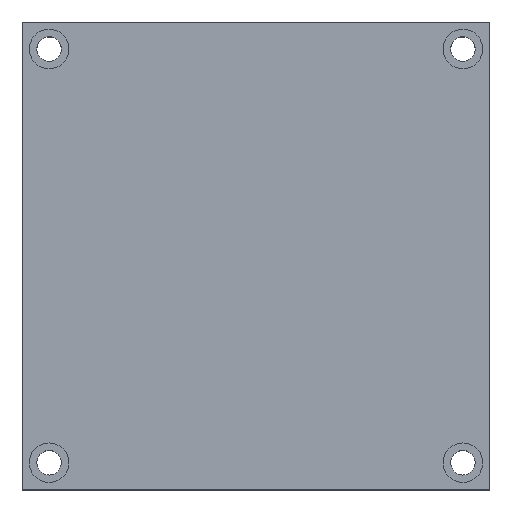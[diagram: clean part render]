
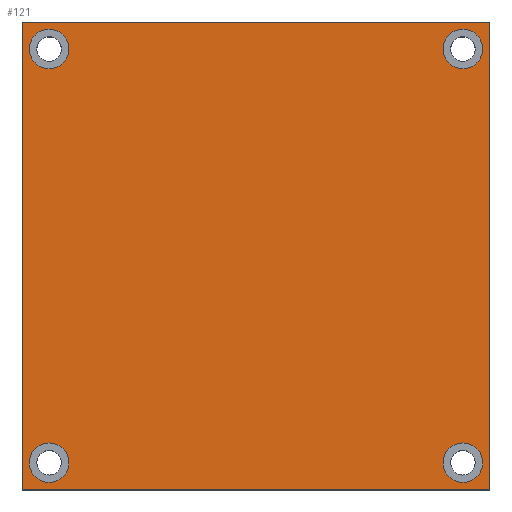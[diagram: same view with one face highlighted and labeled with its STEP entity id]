
A CAD part, top view. The second image highlights one B-rep face of the part: STEP entity #121.
In plain terms, the highlighted planar face has unit normal (0, 0, 1).
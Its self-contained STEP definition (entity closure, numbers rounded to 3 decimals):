
#13 = EDGE_CURVE ( 'NONE', #1960, #2232, #750, .T. ) ;
#14 = DIRECTION ( 'NONE',  ( 1., 0., 0. ) ) ;
#25 = EDGE_LOOP ( 'NONE', ( #100, #1972 ) ) ;
#94 = ORIENTED_EDGE ( 'NONE', *, *, #1992, .F. ) ;
#100 = ORIENTED_EDGE ( 'NONE', *, *, #2672, .F. ) ;
#121 = ADVANCED_FACE ( 'NONE', ( #2339, #1904, #1653, #1236, #1667 ), #466, .T. ) ;
#124 = AXIS2_PLACEMENT_3D ( 'NONE', #520, #505, #1559 ) ;
#131 = DIRECTION ( 'NONE',  ( 1., 0., 0. ) ) ;
#137 = EDGE_LOOP ( 'NONE', ( #480, #228 ) ) ;
#158 = VECTOR ( 'NONE', #363, 1000. ) ;
#165 = CARTESIAN_POINT ( 'NONE',  ( -65., 65., 23. ) ) ;
#176 = AXIS2_PLACEMENT_3D ( 'NONE', #1382, #1605, #131 ) ;
#196 = DIRECTION ( 'NONE',  ( 1., 0., 0. ) ) ;
#212 = CARTESIAN_POINT ( 'NONE',  ( 63., -57.5, 23. ) ) ;
#228 = ORIENTED_EDGE ( 'NONE', *, *, #1787, .F. ) ;
#235 = DIRECTION ( 'NONE',  ( 0., 0., 1. ) ) ;
#287 = VERTEX_POINT ( 'NONE', #969 ) ;
#300 = AXIS2_PLACEMENT_3D ( 'NONE', #1240, #2709, #14 ) ;
#354 = CARTESIAN_POINT ( 'NONE',  ( 52., 57.5, 23. ) ) ;
#363 = DIRECTION ( 'NONE',  ( -1., 0., 0. ) ) ;
#399 = VECTOR ( 'NONE', #1613, 1000. ) ;
#424 = VERTEX_POINT ( 'NONE', #2172 ) ;
#466 = PLANE ( 'NONE',  #1275 ) ;
#480 = ORIENTED_EDGE ( 'NONE', *, *, #683, .F. ) ;
#505 = DIRECTION ( 'NONE',  ( 0., 0., 1. ) ) ;
#507 = VERTEX_POINT ( 'NONE', #1999 ) ;
#508 = AXIS2_PLACEMENT_3D ( 'NONE', #1198, #2048, #1797 ) ;
#509 = DIRECTION ( 'NONE',  ( 0., 0., 1. ) ) ;
#520 = CARTESIAN_POINT ( 'NONE',  ( 57.5, 57.5, 23. ) ) ;
#551 = VERTEX_POINT ( 'NONE', #354 ) ;
#626 = VECTOR ( 'NONE', #1510, 1000. ) ;
#658 = DIRECTION ( 'NONE',  ( 0., 0., 1. ) ) ;
#683 = EDGE_CURVE ( 'NONE', #2200, #1727, #854, .T. ) ;
#688 = CIRCLE ( 'NONE', #1772, 5.5 ) ;
#703 = EDGE_CURVE ( 'NONE', #287, #507, #2080, .T. ) ;
#715 = VERTEX_POINT ( 'NONE', #1461 ) ;
#750 = LINE ( 'NONE', #165, #158 ) ;
#783 = CARTESIAN_POINT ( 'NONE',  ( 65., 65., 23. ) ) ;
#800 = ORIENTED_EDGE ( 'NONE', *, *, #2144, .T. ) ;
#854 = CIRCLE ( 'NONE', #300, 5.5 ) ;
#957 = AXIS2_PLACEMENT_3D ( 'NONE', #1430, #1872, #196 ) ;
#969 = CARTESIAN_POINT ( 'NONE',  ( -63., -57.5, 23. ) ) ;
#985 = EDGE_CURVE ( 'NONE', #2675, #715, #1401, .T. ) ;
#1045 = DIRECTION ( 'NONE',  ( 1., 0., 0. ) ) ;
#1133 = EDGE_LOOP ( 'NONE', ( #2427, #1558 ) ) ;
#1136 = CARTESIAN_POINT ( 'NONE',  ( 57.5, 57.5, 23. ) ) ;
#1146 = ORIENTED_EDGE ( 'NONE', *, *, #1305, .F. ) ;
#1151 = EDGE_LOOP ( 'NONE', ( #94, #1146 ) ) ;
#1154 = CARTESIAN_POINT ( 'NONE',  ( -65., -65., 23. ) ) ;
#1198 = CARTESIAN_POINT ( 'NONE',  ( 57.5, -57.5, 23. ) ) ;
#1236 = FACE_BOUND ( 'NONE', #137, .T. ) ;
#1240 = CARTESIAN_POINT ( 'NONE',  ( 57.5, -57.5, 23. ) ) ;
#1250 = CIRCLE ( 'NONE', #176, 5.5 ) ;
#1269 = EDGE_CURVE ( 'NONE', #424, #2102, #688, .T. ) ;
#1275 = AXIS2_PLACEMENT_3D ( 'NONE', #1280, #2705, #1486 ) ;
#1280 = CARTESIAN_POINT ( 'NONE',  ( 0., 0., 23. ) ) ;
#1305 = EDGE_CURVE ( 'NONE', #551, #1564, #2529, .T. ) ;
#1326 = CARTESIAN_POINT ( 'NONE',  ( 52., -57.5, 23. ) ) ;
#1382 = CARTESIAN_POINT ( 'NONE',  ( -57.5, 57.5, 23. ) ) ;
#1401 = LINE ( 'NONE', #2069, #1413 ) ;
#1413 = VECTOR ( 'NONE', #1858, 1000. ) ;
#1430 = CARTESIAN_POINT ( 'NONE',  ( -57.5, -57.5, 23. ) ) ;
#1440 = CARTESIAN_POINT ( 'NONE',  ( 63., 57.5, 23. ) ) ;
#1447 = CARTESIAN_POINT ( 'NONE',  ( -57.5, -57.5, 23. ) ) ;
#1461 = CARTESIAN_POINT ( 'NONE',  ( 65., -65., 23. ) ) ;
#1485 = DIRECTION ( 'NONE',  ( 1., 0., 0. ) ) ;
#1486 = DIRECTION ( 'NONE',  ( 1., 0., 0. ) ) ;
#1510 = DIRECTION ( 'NONE',  ( 0., -1., 0. ) ) ;
#1534 = DIRECTION ( 'NONE',  ( 1., 0., 0. ) ) ;
#1537 = LINE ( 'NONE', #1977, #626 ) ;
#1558 = ORIENTED_EDGE ( 'NONE', *, *, #703, .F. ) ;
#1559 = DIRECTION ( 'NONE',  ( 1., 0., 0. ) ) ;
#1564 = VERTEX_POINT ( 'NONE', #1440 ) ;
#1592 = AXIS2_PLACEMENT_3D ( 'NONE', #1447, #235, #1045 ) ;
#1605 = DIRECTION ( 'NONE',  ( 0., 0., 1. ) ) ;
#1613 = DIRECTION ( 'NONE',  ( 0., 1., 0. ) ) ;
#1639 = ORIENTED_EDGE ( 'NONE', *, *, #13, .T. ) ;
#1653 = FACE_BOUND ( 'NONE', #1151, .T. ) ;
#1667 = FACE_OUTER_BOUND ( 'NONE', #2015, .T. ) ;
#1691 = CIRCLE ( 'NONE', #1865, 5.5 ) ;
#1727 = VERTEX_POINT ( 'NONE', #1326 ) ;
#1754 = EDGE_CURVE ( 'NONE', #2232, #2675, #1537, .T. ) ;
#1772 = AXIS2_PLACEMENT_3D ( 'NONE', #2544, #658, #1485 ) ;
#1787 = EDGE_CURVE ( 'NONE', #1727, #2200, #2516, .T. ) ;
#1797 = DIRECTION ( 'NONE',  ( 1., 0., 0. ) ) ;
#1830 = CARTESIAN_POINT ( 'NONE',  ( -52., 57.5, 23. ) ) ;
#1858 = DIRECTION ( 'NONE',  ( 1., 0., 0. ) ) ;
#1865 = AXIS2_PLACEMENT_3D ( 'NONE', #1136, #509, #1534 ) ;
#1872 = DIRECTION ( 'NONE',  ( 0., 0., 1. ) ) ;
#1904 = FACE_BOUND ( 'NONE', #25, .T. ) ;
#1960 = VERTEX_POINT ( 'NONE', #2615 ) ;
#1972 = ORIENTED_EDGE ( 'NONE', *, *, #1269, .F. ) ;
#1977 = CARTESIAN_POINT ( 'NONE',  ( -65., 65., 23. ) ) ;
#1992 = EDGE_CURVE ( 'NONE', #1564, #551, #1691, .T. ) ;
#1999 = CARTESIAN_POINT ( 'NONE',  ( -52., -57.5, 23. ) ) ;
#2015 = EDGE_LOOP ( 'NONE', ( #800, #1639, #2277, #2151 ) ) ;
#2048 = DIRECTION ( 'NONE',  ( 0., 0., 1. ) ) ;
#2069 = CARTESIAN_POINT ( 'NONE',  ( -65., -65., 23. ) ) ;
#2080 = CIRCLE ( 'NONE', #1592, 5.5 ) ;
#2102 = VERTEX_POINT ( 'NONE', #1830 ) ;
#2144 = EDGE_CURVE ( 'NONE', #715, #1960, #2229, .T. ) ;
#2151 = ORIENTED_EDGE ( 'NONE', *, *, #985, .T. ) ;
#2172 = CARTESIAN_POINT ( 'NONE',  ( -63., 57.5, 23. ) ) ;
#2196 = EDGE_CURVE ( 'NONE', #507, #287, #2624, .T. ) ;
#2200 = VERTEX_POINT ( 'NONE', #212 ) ;
#2229 = LINE ( 'NONE', #783, #399 ) ;
#2232 = VERTEX_POINT ( 'NONE', #2293 ) ;
#2277 = ORIENTED_EDGE ( 'NONE', *, *, #1754, .T. ) ;
#2293 = CARTESIAN_POINT ( 'NONE',  ( -65., 65., 23. ) ) ;
#2339 = FACE_BOUND ( 'NONE', #1133, .T. ) ;
#2427 = ORIENTED_EDGE ( 'NONE', *, *, #2196, .F. ) ;
#2516 = CIRCLE ( 'NONE', #508, 5.5 ) ;
#2529 = CIRCLE ( 'NONE', #124, 5.5 ) ;
#2544 = CARTESIAN_POINT ( 'NONE',  ( -57.5, 57.5, 23. ) ) ;
#2615 = CARTESIAN_POINT ( 'NONE',  ( 65., 65., 23. ) ) ;
#2624 = CIRCLE ( 'NONE', #957, 5.5 ) ;
#2672 = EDGE_CURVE ( 'NONE', #2102, #424, #1250, .T. ) ;
#2675 = VERTEX_POINT ( 'NONE', #1154 ) ;
#2705 = DIRECTION ( 'NONE',  ( 0., 0., 1. ) ) ;
#2709 = DIRECTION ( 'NONE',  ( 0., 0., 1. ) ) ;
